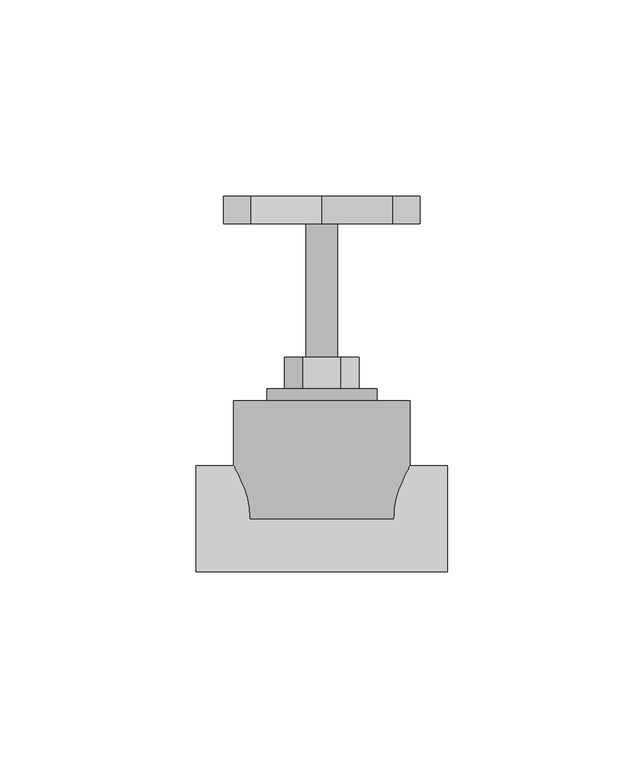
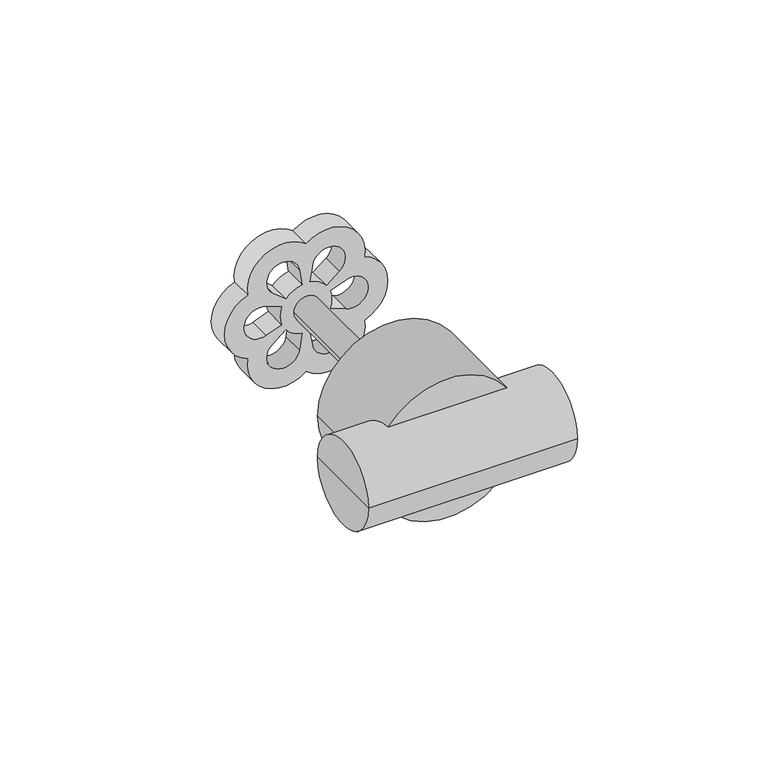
"""IFC4 building model written with IfcOpenShell, lengths in millimetres: valve geometry, KAN-therm PP zawór odcinający grzybkowy : KAN-therm PP zawór odcinający grzybkowy."""

from ifc_helpers import new_model, si_unit, point, frame, frame_2d, origin, origin_2d, place, context, project, spatial, polyline, circle_curve, trimmed, segment, composite_curve, outline, extrude, source, transform, mapped, element, save
from ifc_brep_helpers import plane_surface, cylinder_surface, advanced_brep


def valve_cd258e7f(model_context):
    return source(origin(), model_context, "Body", "SolidModel", [
        extrude(outline(composite_curve([segment(trimmed(circle_curve(frame_2d((0.0, -14.0)), 11.0), [point((10.3048185, -17.8484692))], [point((-10.3048185, -17.8484692))], False, "CARTESIAN"), True, "CONTINUOUS"), segment(trimmed(circle_curve(frame_2d((-12.1243557, -7.0)), 11.0), [point((-10.3048185, -17.8484692))], [point((-20.609637, 0.0))], False, "CARTESIAN"), True, "CONTINUOUS"), segment(trimmed(circle_curve(frame_2d((-12.1243557, 7.0)), 11.0), [point((-20.609637, 0.0))], [point((-10.3048185, 17.8484692))], False, "CARTESIAN"), True, "CONTINUOUS"), segment(trimmed(circle_curve(frame_2d((0.0, 14.0)), 11.0), [point((-10.3048185, 17.8484692))], [point((10.3048185, 17.8484692))], False, "CARTESIAN"), True, "CONTINUOUS"), segment(trimmed(circle_curve(frame_2d((12.1243557, 7.0)), 11.0), [point((10.3048185, 17.8484692))], [point((20.609637, 0.0))], False, "CARTESIAN"), True, "CONTINUOUS"), segment(trimmed(circle_curve(frame_2d((12.1243557, -7.0)), 11.0), [point((20.609637, 0.0))], [point((10.3048185, -17.8484692))], False, "CARTESIAN"), True, "CONTINUOUS")], self_intersect=False), holes=[composite_curve([segment(trimmed(circle_curve(origin_2d(), 8.0), [point((7.8998581, -1.2618408))], [point((5.0427152, -6.2105574))], False, "CARTESIAN"), True, "CONTINUOUS"), segment(polyline([(5.0427152, -6.2105574), (8.2427573, -10.151697)]), True, "CONTINUOUS"), segment(trimmed(circle_curve(frame_2d((12.1243557, -7.0)), 5.0), [point((8.2427573, -10.151697))], [point((12.9130062, -2.0625887))], True, "CARTESIAN"), True, "CONTINUOUS"), segment(polyline([(12.9130062, -2.0625887), (7.8998581, -1.2618408)]), True, "CONTINUOUS")], self_intersect=False), composite_curve([segment(polyline([(4.6702489, -12.2142857), (2.8571429, -7.4723982)]), True, "CONTINUOUS"), segment(trimmed(circle_curve(origin_2d(), 8.0), [point((2.8571429, -7.4723982))], [point((-2.8571429, -7.4723982))], False, "CARTESIAN"), True, "CONTINUOUS"), segment(polyline([(-2.8571429, -7.4723982), (-4.6702489, -12.2142857)]), True, "CONTINUOUS"), segment(trimmed(circle_curve(frame_2d((0.0, -14.0)), 5.0), [point((-4.6702489, -12.2142857))], [point((4.6702489, -12.2142857))], True, "CARTESIAN"), True, "CONTINUOUS")], self_intersect=False), composite_curve([segment(polyline([(8.2427573, 10.151697), (5.0427152, 6.2105574)]), True, "CONTINUOUS"), segment(trimmed(circle_curve(origin_2d(), 8.0), [point((5.0427152, 6.2105574))], [point((7.8998581, 1.2618408))], False, "CARTESIAN"), True, "CONTINUOUS"), segment(polyline([(7.8998581, 1.2618408), (12.9130062, 2.0625887)]), True, "CONTINUOUS"), segment(trimmed(circle_curve(frame_2d((12.1243557, 7.0)), 5.0), [point((12.9130062, 2.0625887))], [point((8.2427573, 10.151697))], True, "CARTESIAN"), True, "CONTINUOUS")], self_intersect=False), composite_curve([segment(polyline([(-4.6702489, 12.2142857), (-2.8571429, 7.4723982)]), True, "CONTINUOUS"), segment(trimmed(circle_curve(origin_2d(), 8.0), [point((-2.8571429, 7.4723982))], [point((2.8571429, 7.4723982))], False, "CARTESIAN"), True, "CONTINUOUS"), segment(polyline([(2.8571429, 7.4723982), (4.6702489, 12.2142857)]), True, "CONTINUOUS"), segment(trimmed(circle_curve(frame_2d((0.0, 14.0)), 5.0), [point((4.6702489, 12.2142857))], [point((-4.6702489, 12.2142857))], True, "CARTESIAN"), True, "CONTINUOUS")], self_intersect=False), composite_curve([segment(polyline([(-12.9130062, 2.0625887), (-7.8998581, 1.2618408)]), True, "CONTINUOUS"), segment(trimmed(circle_curve(origin_2d(), 8.0), [point((-7.8998581, 1.2618408))], [point((-5.0427152, 6.2105574))], False, "CARTESIAN"), True, "CONTINUOUS"), segment(polyline([(-5.0427152, 6.2105574), (-8.2427573, 10.151697)]), True, "CONTINUOUS"), segment(trimmed(circle_curve(frame_2d((-12.1243557, 7.0)), 5.0), [point((-8.2427573, 10.151697))], [point((-12.9130062, 2.0625887))], True, "CARTESIAN"), True, "CONTINUOUS")], self_intersect=False), composite_curve([segment(polyline([(-8.2427573, -10.151697), (-5.0427152, -6.2105574)]), True, "CONTINUOUS"), segment(trimmed(circle_curve(origin_2d(), 8.0), [point((-5.0427152, -6.2105574))], [point((-7.8998581, -1.2618408))], False, "CARTESIAN"), True, "CONTINUOUS"), segment(polyline([(-7.8998581, -1.2618408), (-12.9130062, -2.0625887)]), True, "CONTINUOUS"), segment(trimmed(circle_curve(frame_2d((-12.1243557, -7.0)), 5.0), [point((-12.9130062, -2.0625887))], [point((-8.2427573, -10.151697))], True, "CARTESIAN"), True, "CONTINUOUS")], self_intersect=False)]), frame((0.0, 75.0, 0.0), z_axis=(0.0, 1.0, 0.0), x_axis=(0.0, 0.0, 1.0)), (0.0, 0.0, 1.0), 7.0),
        extrude(outline(composite_curve([segment(trimmed(circle_curve(origin_2d(), 4.0), [point((0.0, 4.0))], [point((0.0, -4.0))], False, "CARTESIAN"), True, "CONTINUOUS"), segment(trimmed(circle_curve(origin_2d(), 4.0), [point((0.0, -4.0))], [point((0.0, 4.0))], False, "CARTESIAN"), True, "CONTINUOUS")], self_intersect=False)), frame((0.0, 41.0, 0.0), z_axis=(0.0, 1.0, 0.0), x_axis=(0.0, 0.0, 1.0)), (0.0, 0.0, 1.0), 34.0),
        extrude(outline(polyline([(8.2272413, -4.75), (0.0, -9.5), (-8.2272413, -4.75), (-8.2272413, 4.75), (0.0, 9.5), (8.2272413, 4.75), (8.2272413, -4.75)])), frame((0.0, 33.0, 0.0), z_axis=(0.0, 1.0, 0.0), x_axis=(0.0, 0.0, 1.0)), (0.0, 0.0, 1.0), 8.0),
        advanced_brep(
        [(-14.0, 33.0, 0.0), (14.0, 33.0, 0.0), (14.0, 30.0, 0.0), (-14.0, 30.0, 0.0), (0.0, 33.0, 0.0), (0.0, 30.0, 0.0)],
        [
            (0, 1, circle_curve(frame((0.0, 33.0, 0.0), z_axis=(0.0, -1.0, 0.0), x_axis=(1.0, 0.0, 0.0)), 14.0)),
            (1, 2),
            (2, 3, circle_curve(frame((0.0, 30.0, 0.0), z_axis=(0.0, 1.0, 0.0), x_axis=(1.0, 0.0, 0.0)), 14.0)),
            (3, 0),
            (1, 0, circle_curve(frame((0.0, 33.0, 0.0), z_axis=(0.0, -1.0, 0.0), x_axis=(1.0, 0.0, 0.0)), 14.0)),
            (3, 2, circle_curve(frame((0.0, 30.0, 0.0), z_axis=(0.0, 1.0, 0.0), x_axis=(1.0, 0.0, 0.0)), 14.0)),
            (4, 1),
            (0, 4),
            (2, 5),
            (5, 3),
        ],
        [
            cylinder_surface(frame((0.0, 2000.0, 0.0), z_axis=(0.0, 1.0, 0.0), x_axis=(1.0, 0.0, 0.0)), 14.0),
            plane_surface(frame((0.0, 33.0, 0.0), z_axis=(0.0, 1.0, 0.0), x_axis=(1.0, 0.0, 0.0))),
            plane_surface(frame((0.0, 30.0, 0.0), z_axis=(0.0, -1.0, 0.0), x_axis=(1.0, 0.0, 0.0))),
        ],
        [
            (0, [[1, 2, 3, 4]]),
            (0, [[5, -4, 6, -2]]),
            (1, [[7, -1, 8]]),
            (1, [[-8, -5, -7]]),
            (2, [[-3, 9, 10]]),
            (2, [[-6, -10, -9]]),
        ],
    ),
        advanced_brep(
        [(-22.5, 30.0, 0.0), (22.5, 30.0, 0.0), (22.5, 0.0, 0.0), (-22.5, 0.0, 0.0), (0.0, 30.0, 0.0), (0.0, 0.0, 0.0)],
        [
            (0, 1, circle_curve(frame((0.0, 30.0, 0.0), z_axis=(0.0, -1.0, 0.0), x_axis=(1.0, 0.0, 0.0)), 22.5)),
            (1, 2),
            (2, 3, circle_curve(frame((0.0, 0.0, 0.0), z_axis=(0.0, 1.0, 0.0), x_axis=(1.0, 0.0, 0.0)), 22.5)),
            (3, 0),
            (1, 0, circle_curve(frame((0.0, 30.0, 0.0), z_axis=(0.0, -1.0, 0.0), x_axis=(1.0, 0.0, 0.0)), 22.5)),
            (3, 2, circle_curve(frame((0.0, 0.0, 0.0), z_axis=(0.0, 1.0, 0.0), x_axis=(1.0, 0.0, 0.0)), 22.5)),
            (4, 1),
            (0, 4),
            (2, 5),
            (5, 3),
        ],
        [
            cylinder_surface(frame((0.0, 2003.0, 0.0), z_axis=(0.0, 1.0, 0.0), x_axis=(1.0, 0.0, 0.0)), 22.5),
            plane_surface(frame((0.0, 30.0, 0.0), z_axis=(0.0, 1.0, 0.0), x_axis=(1.0, 0.0, 0.0))),
            plane_surface(frame((0.0, 0.0, 0.0), z_axis=(0.0, -1.0, 0.0), x_axis=(1.0, 0.0, 0.0))),
        ],
        [
            (0, [[1, 2, 3, 4]]),
            (0, [[5, -4, 6, -2]]),
            (1, [[7, -1, 8]]),
            (1, [[-8, -5, -7]]),
            (2, [[-3, 9, 10]]),
            (2, [[-6, -10, -9]]),
        ],
    ),
        advanced_brep(
        [(32.0, 0.0, 0.0), (32.0, -13.5, 0.0), (32.0, 13.5, 0.0), (-32.0, 13.5, 0.0), (-32.0, -13.5, 0.0), (-32.0, 0.0, 0.0)],
        [
            (0, 1),
            (1, 2, circle_curve(frame((32.0, 0.0, 0.0), z_axis=(1.0, 0.0, 0.0), x_axis=(0.0, -1.0, 0.0)), 13.5)),
            (2, 0),
            (2, 1, circle_curve(frame((32.0, 0.0, 0.0), z_axis=(1.0, 0.0, 0.0), x_axis=(0.0, -1.0, 0.0)), 13.5)),
            (3, 4, circle_curve(frame((-32.0, 0.0, 0.0), z_axis=(-1.0, 0.0, 0.0), x_axis=(0.0, -1.0, 0.0)), 13.5)),
            (4, 5),
            (5, 3),
            (4, 3, circle_curve(frame((-32.0, 0.0, 0.0), z_axis=(-1.0, 0.0, 0.0), x_axis=(0.0, -1.0, 0.0)), 13.5)),
            (1, 4),
            (3, 2),
        ],
        [
            plane_surface(frame((32.0, 0.0, 0.0), z_axis=(1.0, 0.0, 0.0), x_axis=(0.0, -1.0, 0.0))),
            plane_surface(frame((-32.0, 0.0, 0.0), z_axis=(-1.0, 0.0, 0.0), x_axis=(0.0, -1.0, 0.0))),
            cylinder_surface(frame((2004.5, 0.0, 0.0), z_axis=(1.0, 0.0, 0.0), x_axis=(0.0, -1.0, 0.0)), 13.5),
        ],
        [
            (0, [[1, 2, 3]]),
            (0, [[-3, 4, -1]]),
            (1, [[5, 6, 7]]),
            (1, [[8, -7, -6]]),
            (2, [[-2, 9, -5, 10]]),
            (2, [[-4, -10, -8, -9]]),
        ],
    ),
    ])


if __name__ == "__main__":
    model = new_model("IFC4")
    model_context = context("Model", 3, world=origin())
    ifc_project = project(units=[si_unit("LENGTHUNIT", "METRE", prefix="MILLI")], contexts=[model_context])
    site = spatial("IfcSite", under=ifc_project)
    building = spatial("IfcBuilding", under=site)
    placement = place(None, origin())
    valve_shape = valve_cd258e7f(model_context)
    element("IfcValve", 1, ObjectType="KAN-therm PP zawór odcinający grzybkowy : KAN-therm PP zawór odcinający grzybkowy", at=placement, inside=building, context=model_context, shape_type="MappedRepresentation", body=[
        mapped(valve_shape, transform((0.0, 0.0, 0.0), x_axis=(1.0, 0.0, 0.0), y_axis=(0.0, 1.0, 0.0), z_axis=(0.0, 0.0, 1.0))),
    ])
    save(model, "model.ifc")
